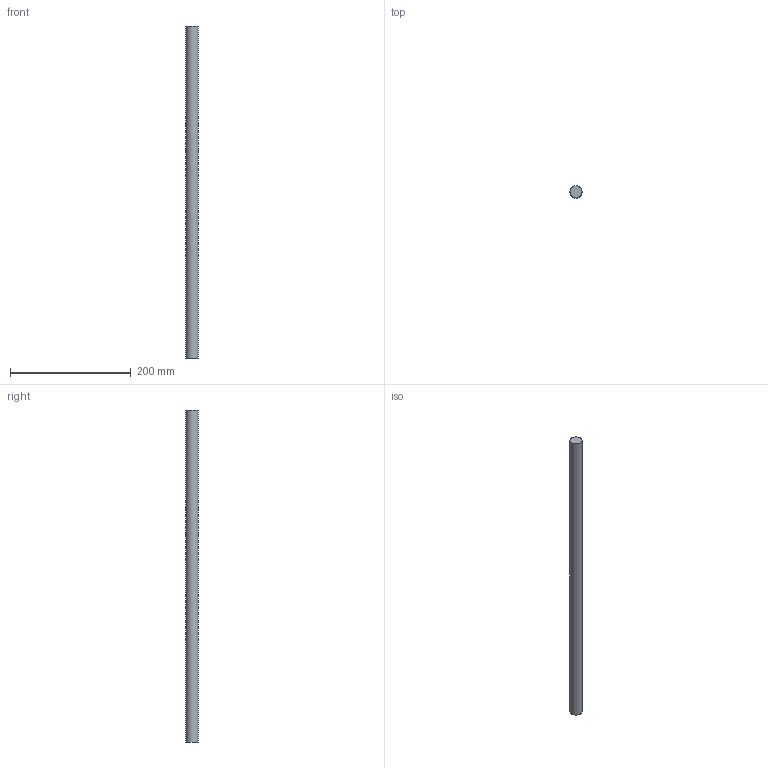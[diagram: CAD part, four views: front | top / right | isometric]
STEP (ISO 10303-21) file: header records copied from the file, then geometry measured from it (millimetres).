
FILE_DESCRIPTION(/* description */ (''),/* implementation_level */ '2;1');
FILE_NAME(/* name */ 'C:\Users\David\Desktop\stepFiles\Profilfuehrung\WF20x550.stp',/* time_stamp */ '2018-06-24T15:49:03+02:00',/* author */ ('David'),/* organization */ (''),/* preprocessor_version */ 'ST-DEVELOPER v17',/* originating_system */ 'Autodesk Inventor 2019',/* authorisation */ '');
FILE_SCHEMA (('AUTOMOTIVE_DESIGN { 1 0 10303 214 3 1 1 }'));
Length unit declared in the file: millimetre
Products named in the file (1): Wellenfuehrung
Bounding box: 20 x 20 x 550 mm (x, y, z)
Volume: 172787.6 mm3; surface area: 35185.8 mm2
Topology: 1 solids, 1 shells, 3 faces, 3 edges, 2 vertices
Faces by surface type: plane 2, cylinder 1
Full cylindrical faces by diameter (mm): 20 x1
Entity records: 98 total; most frequent: DIRECTION 13, CARTESIAN_POINT 9, ORIENTED_EDGE 6, AXIS2_PLACEMENT_3D 6, FACE_OUTER_BOUND 3, EDGE_LOOP 3, EDGE_CURVE 3, ADVANCED_FACE 3
